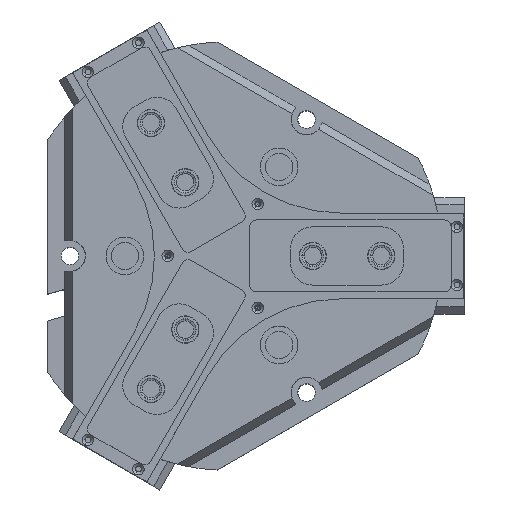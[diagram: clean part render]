
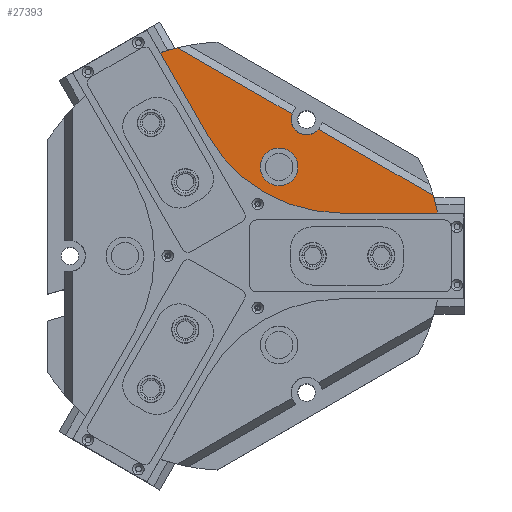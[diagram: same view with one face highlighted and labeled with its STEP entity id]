
A CAD part, top view. The second image highlights one B-rep face of the part: STEP entity #27393.
In plain terms, the highlighted planar face has unit normal (0, 0, 1) as drawn and (0, 1, 0) by its records, which use the part's own axes.
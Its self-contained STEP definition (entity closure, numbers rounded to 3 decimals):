
#1085 = CARTESIAN_POINT ( 'NONE',  ( -98.592, 88., 76.841 ) ) ;
#1583 = CIRCLE ( 'NONE', #15980, 41.5 ) ;
#1685 = PLANE ( 'NONE',  #18619 ) ;
#1761 = DIRECTION ( 'NONE',  ( 0., 0., -1. ) ) ;
#1821 = CIRCLE ( 'NONE', #18930, 9. ) ;
#2671 = ORIENTED_EDGE ( 'NONE', *, *, #20099, .F. ) ;
#3005 = ORIENTED_EDGE ( 'NONE', *, *, #9403, .F. ) ;
#3238 = LINE ( 'NONE', #12894, #21691 ) ;
#3274 = CARTESIAN_POINT ( 'NONE',  ( 24.063, 88., 33.811 ) ) ;
#3350 = CARTESIAN_POINT ( 'NONE',  ( 0., 88., 0. ) ) ;
#3795 = VERTEX_POINT ( 'NONE', #23367 ) ;
#4942 = CARTESIAN_POINT ( 'NONE',  ( 0., 88., 92. ) ) ;
#5204 = ORIENTED_EDGE ( 'NONE', *, *, #23485, .F. ) ;
#5324 = LINE ( 'NONE', #10733, #30022 ) ;
#5570 = CIRCLE ( 'NONE', #21276, 125. ) ;
#5663 = DIRECTION ( 'NONE',  ( 0.866, 0., 0.5 ) ) ;
#5701 = VERTEX_POINT ( 'NONE', #18386 ) ;
#5757 = DIRECTION ( 'NONE',  ( 0., 0., -1. ) ) ;
#5973 = DIRECTION ( 'NONE',  ( 0.866, 0., -0.5 ) ) ;
#7097 = FACE_BOUND ( 'NONE', #14092, .T. ) ;
#7164 = AXIS2_PLACEMENT_3D ( 'NONE', #30433, #16158, #1761 ) ;
#7335 = DIRECTION ( 'NONE',  ( 0., 0., 1. ) ) ;
#7459 = CARTESIAN_POINT ( 'NONE',  ( 98.592, 88., 76.841 ) ) ;
#7517 = CARTESIAN_POINT ( 'NONE',  ( -24.063, 88., 33.811 ) ) ;
#8199 = CIRCLE ( 'NONE', #25184, 11. ) ;
#8383 = CIRCLE ( 'NONE', #8933, 11. ) ;
#8928 = VERTEX_POINT ( 'NONE', #15814 ) ;
#8933 = AXIS2_PLACEMENT_3D ( 'NONE', #27208, #27283, #27314 ) ;
#9046 = DIRECTION ( 'NONE',  ( 0., -1., 0. ) ) ;
#9403 = EDGE_CURVE ( 'NONE', #24027, #20580, #28767, .T. ) ;
#10553 = EDGE_LOOP ( 'NONE', ( #24426, #2671, #26862, #16707, #11600, #12334, #3005, #5204 ) ) ;
#10733 = CARTESIAN_POINT ( 'NONE',  ( 125., 88., 90.5 ) ) ;
#11582 = CARTESIAN_POINT ( 'NONE',  ( 0., 88., 90.5 ) ) ;
#11600 = ORIENTED_EDGE ( 'NONE', *, *, #21181, .F. ) ;
#11661 = DIRECTION ( 'NONE',  ( -1., 0., 0. ) ) ;
#11915 = EDGE_CURVE ( 'NONE', #19558, #8928, #8199, .T. ) ;
#12149 = EDGE_CURVE ( 'NONE', #20580, #25290, #1583, .T. ) ;
#12334 = ORIENTED_EDGE ( 'NONE', *, *, #12149, .F. ) ;
#12335 = EDGE_CURVE ( 'NONE', #8928, #19558, #8383, .T. ) ;
#12894 = CARTESIAN_POINT ( 'NONE',  ( 24.063, 88., 33.811 ) ) ;
#13141 = DIRECTION ( 'NONE',  ( -1., 0., 0. ) ) ;
#14092 = EDGE_LOOP ( 'NONE', ( #29079, #19640 ) ) ;
#15510 = VERTEX_POINT ( 'NONE', #15646 ) ;
#15646 = CARTESIAN_POINT ( 'NONE',  ( -8.874, 88., 90.5 ) ) ;
#15814 = CARTESIAN_POINT ( 'NONE',  ( 0., 88., 71. ) ) ;
#15980 = AXIS2_PLACEMENT_3D ( 'NONE', #25893, #25339, #25342 ) ;
#16158 = DIRECTION ( 'NONE',  ( 0., -1., 0. ) ) ;
#16707 = ORIENTED_EDGE ( 'NONE', *, *, #23305, .F. ) ;
#16836 = EDGE_CURVE ( 'NONE', #15510, #5701, #21581, .T. ) ;
#17130 = VERTEX_POINT ( 'NONE', #7459 ) ;
#18386 = CARTESIAN_POINT ( 'NONE',  ( -86.225, 88., 90.5 ) ) ;
#18524 = VECTOR ( 'NONE', #11661, 1000. ) ;
#18619 = AXIS2_PLACEMENT_3D ( 'NONE', #23394, #9046, #25761 ) ;
#18930 = AXIS2_PLACEMENT_3D ( 'NONE', #4942, #21767, #7335 ) ;
#19157 = FACE_OUTER_BOUND ( 'NONE', #10553, .T. ) ;
#19558 = VERTEX_POINT ( 'NONE', #26312 ) ;
#19640 = ORIENTED_EDGE ( 'NONE', *, *, #11915, .F. ) ;
#20099 = EDGE_CURVE ( 'NONE', #21492, #15510, #1821, .T. ) ;
#20180 = DIRECTION ( 'NONE',  ( 0., -1., 0. ) ) ;
#20580 = VERTEX_POINT ( 'NONE', #7517 ) ;
#20826 = CARTESIAN_POINT ( 'NONE',  ( 0., 88., 60. ) ) ;
#20840 = CARTESIAN_POINT ( 'NONE',  ( -98.592, 88., 76.841 ) ) ;
#20895 = DIRECTION ( 'NONE',  ( 0., 1., 0. ) ) ;
#21008 = DIRECTION ( 'NONE',  ( 0., 0., 1. ) ) ;
#21181 = EDGE_CURVE ( 'NONE', #25290, #17130, #3238, .T. ) ;
#21276 = AXIS2_PLACEMENT_3D ( 'NONE', #3350, #20180, #5757 ) ;
#21427 = CARTESIAN_POINT ( 'NONE',  ( 8.874, 88., 90.5 ) ) ;
#21492 = VERTEX_POINT ( 'NONE', #21427 ) ;
#21581 = LINE ( 'NONE', #11582, #18524 ) ;
#21691 = VECTOR ( 'NONE', #5663, 1000. ) ;
#21767 = DIRECTION ( 'NONE',  ( 0., 1., 0. ) ) ;
#22588 = EDGE_CURVE ( 'NONE', #3795, #21492, #5324, .T. ) ;
#23305 = EDGE_CURVE ( 'NONE', #17130, #3795, #5570, .T. ) ;
#23367 = CARTESIAN_POINT ( 'NONE',  ( 86.225, 88., 90.5 ) ) ;
#23394 = CARTESIAN_POINT ( 'NONE',  ( 0., 88., 125. ) ) ;
#23485 = EDGE_CURVE ( 'NONE', #5701, #24027, #23534, .T. ) ;
#23534 = CIRCLE ( 'NONE', #7164, 125. ) ;
#24027 = VERTEX_POINT ( 'NONE', #20840 ) ;
#24426 = ORIENTED_EDGE ( 'NONE', *, *, #16836, .F. ) ;
#25184 = AXIS2_PLACEMENT_3D ( 'NONE', #20826, #20895, #21008 ) ;
#25290 = VERTEX_POINT ( 'NONE', #3274 ) ;
#25339 = DIRECTION ( 'NONE',  ( 0., 1., 0. ) ) ;
#25342 = DIRECTION ( 'NONE',  ( 0., 0., -1. ) ) ;
#25761 = DIRECTION ( 'NONE',  ( 0., 0., -1. ) ) ;
#25893 = CARTESIAN_POINT ( 'NONE',  ( 0., 88., 0. ) ) ;
#26312 = CARTESIAN_POINT ( 'NONE',  ( 0., 88., 49. ) ) ;
#26862 = ORIENTED_EDGE ( 'NONE', *, *, #22588, .F. ) ;
#27208 = CARTESIAN_POINT ( 'NONE',  ( 0., 88., 60. ) ) ;
#27283 = DIRECTION ( 'NONE',  ( 0., 1., 0. ) ) ;
#27314 = DIRECTION ( 'NONE',  ( 0., 0., 1. ) ) ;
#27393 = ADVANCED_FACE ( 'NONE', ( #7097, #19157 ), #1685, .F. ) ;
#28767 = LINE ( 'NONE', #1085, #29498 ) ;
#29079 = ORIENTED_EDGE ( 'NONE', *, *, #12335, .F. ) ;
#29498 = VECTOR ( 'NONE', #5973, 1000. ) ;
#30022 = VECTOR ( 'NONE', #13141, 1000. ) ;
#30433 = CARTESIAN_POINT ( 'NONE',  ( 0., 88., 0. ) ) ;
